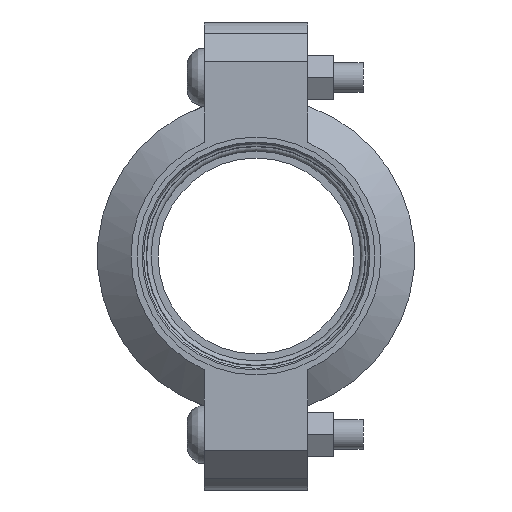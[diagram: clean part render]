
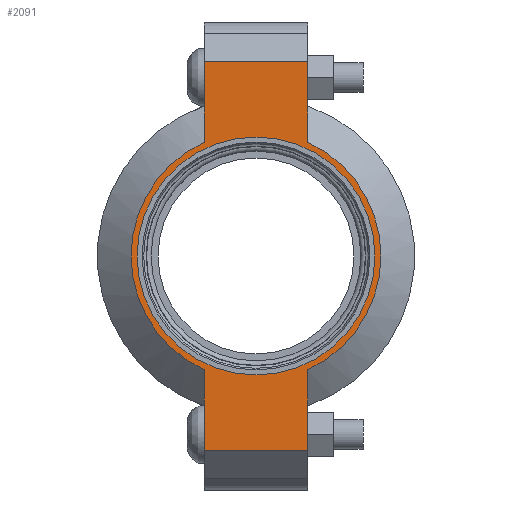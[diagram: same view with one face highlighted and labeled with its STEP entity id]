
A CAD part, left-side view. The second image highlights one B-rep face of the part: STEP entity #2091.
In plain terms, the highlighted planar face has unit normal (-1, 0, 0) as drawn and (0, 0, 1) by its records, which use the part's own axes.
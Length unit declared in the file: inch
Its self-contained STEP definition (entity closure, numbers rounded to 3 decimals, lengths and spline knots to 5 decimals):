
#206=LINE('',#3742,#307);
#219=LINE('',#3786,#320);
#224=LINE('',#3810,#325);
#231=LINE('',#3828,#332);
#238=LINE('',#3853,#339);
#239=LINE('',#3856,#340);
#307=VECTOR('',#3034,0.3937);
#320=VECTOR('',#3063,0.3937);
#325=VECTOR('',#3074,0.3937);
#332=VECTOR('',#3091,0.3937);
#339=VECTOR('',#3112,0.3937);
#340=VECTOR('',#3117,0.3937);
#396=FACE_BOUND('',#666,.T.);
#442=PLANE('',#2458);
#539=FACE_OUTER_BOUND('',#665,.T.);
#665=EDGE_LOOP('',(#1834,#1835,#1836,#1837,#1838,#1839,#1840,#1841));
#666=EDGE_LOOP('',(#1842));
#810=CIRCLE('',#2396,1.5);
#838=CIRCLE('',#2459,1.575);
#839=CIRCLE('',#2460,1.575);
#961=VERTEX_POINT('',#3530);
#1004=VERTEX_POINT('',#3737);
#1005=VERTEX_POINT('',#3741);
#1021=VERTEX_POINT('',#3783);
#1022=VERTEX_POINT('',#3785);
#1028=VERTEX_POINT('',#3805);
#1029=VERTEX_POINT('',#3809);
#1034=VERTEX_POINT('',#3825);
#1035=VERTEX_POINT('',#3827);
#1200=EDGE_CURVE('',#961,#961,#810,.T.);
#1262=EDGE_CURVE('',#1005,#1004,#206,.T.);
#1282=EDGE_CURVE('',#1022,#1021,#219,.T.);
#1291=EDGE_CURVE('',#1029,#1028,#224,.T.);
#1300=EDGE_CURVE('',#1035,#1034,#231,.T.);
#1312=EDGE_CURVE('',#1029,#1021,#238,.T.);
#1313=EDGE_CURVE('',#1028,#1035,#838,.T.);
#1314=EDGE_CURVE('',#1005,#1034,#239,.T.);
#1315=EDGE_CURVE('',#1004,#1022,#839,.T.);
#1834=ORIENTED_EDGE('',*,*,#1312,.F.);
#1835=ORIENTED_EDGE('',*,*,#1291,.T.);
#1836=ORIENTED_EDGE('',*,*,#1313,.T.);
#1837=ORIENTED_EDGE('',*,*,#1300,.T.);
#1838=ORIENTED_EDGE('',*,*,#1314,.F.);
#1839=ORIENTED_EDGE('',*,*,#1262,.T.);
#1840=ORIENTED_EDGE('',*,*,#1315,.T.);
#1841=ORIENTED_EDGE('',*,*,#1282,.T.);
#1842=ORIENTED_EDGE('',*,*,#1200,.T.);
#2091=ADVANCED_FACE('',(#539,#396),#442,.T.);
#2396=AXIS2_PLACEMENT_3D('',#3532,#2914,#2915);
#2458=AXIS2_PLACEMENT_3D('',#3854,#3113,#3114);
#2459=AXIS2_PLACEMENT_3D('',#3855,#3115,#3116);
#2460=AXIS2_PLACEMENT_3D('',#3857,#3118,#3119);
#2914=DIRECTION('center_axis',(0.,0.,-1.));
#2915=DIRECTION('ref_axis',(1.,0.,0.));
#3034=DIRECTION('',(1.,0.,0.));
#3063=DIRECTION('',(1.,0.,0.));
#3074=DIRECTION('',(-1.,0.,0.));
#3091=DIRECTION('',(-1.,0.,0.));
#3112=DIRECTION('',(0.,-1.,0.));
#3113=DIRECTION('center_axis',(0.,0.,1.));
#3114=DIRECTION('ref_axis',(-1.,0.,0.));
#3115=DIRECTION('center_axis',(0.,0.,1.));
#3116=DIRECTION('ref_axis',(1.,0.,0.));
#3117=DIRECTION('',(0.,1.,0.));
#3118=DIRECTION('center_axis',(0.,0.,1.));
#3119=DIRECTION('ref_axis',(1.,0.,0.));
#3530=CARTESIAN_POINT('',(-1.5,0.,0.94));
#3532=CARTESIAN_POINT('Origin',(0.,0.,0.94));
#3737=CARTESIAN_POINT('',(-1.43462,-0.65,0.94));
#3741=CARTESIAN_POINT('',(-2.45,-0.65,0.94));
#3742=CARTESIAN_POINT('',(2.95,-0.65,0.94));
#3783=CARTESIAN_POINT('',(2.45,-0.65,0.94));
#3785=CARTESIAN_POINT('',(1.43462,-0.65,0.94));
#3786=CARTESIAN_POINT('',(2.95,-0.65,0.94));
#3805=CARTESIAN_POINT('',(1.43462,0.65,0.94));
#3809=CARTESIAN_POINT('',(2.45,0.65,0.94));
#3810=CARTESIAN_POINT('',(-2.95,0.65,0.94));
#3825=CARTESIAN_POINT('',(-2.45,0.65,0.94));
#3827=CARTESIAN_POINT('',(-1.43462,0.65,0.94));
#3828=CARTESIAN_POINT('',(-2.95,0.65,0.94));
#3853=CARTESIAN_POINT('',(2.45,-0.325,0.94));
#3854=CARTESIAN_POINT('Origin',(0.,0.,
0.94));
#3855=CARTESIAN_POINT('Origin',(0.,0.,0.94));
#3856=CARTESIAN_POINT('',(-2.45,0.325,0.94));
#3857=CARTESIAN_POINT('Origin',(0.,0.,0.94));
